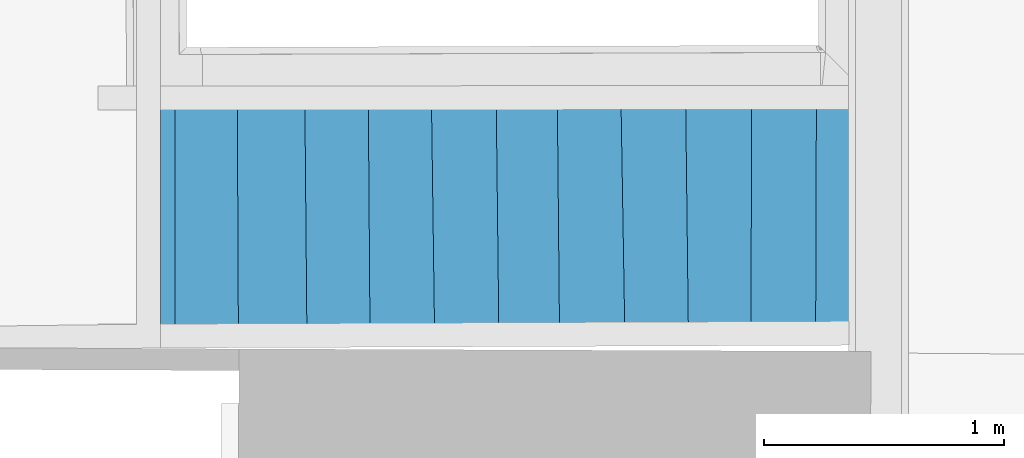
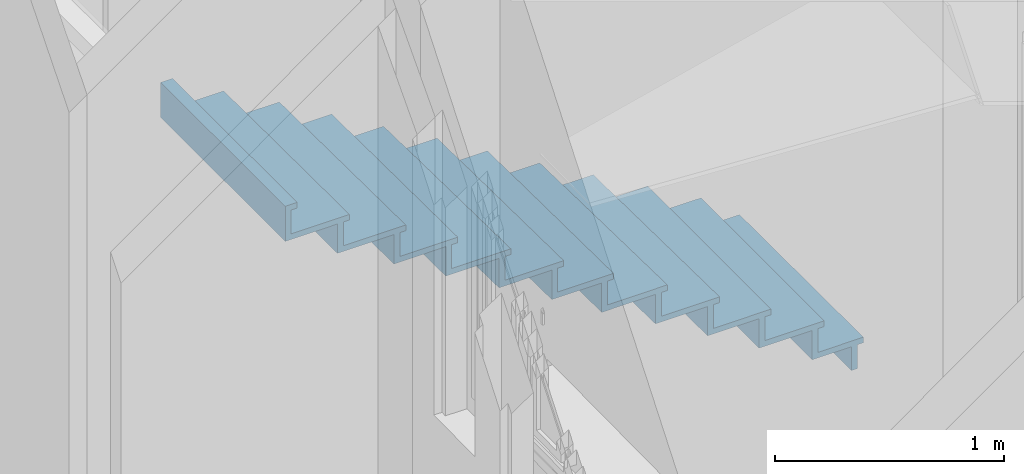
# One storey, part 50 of 66: 1 stair flight, 1 element without a shape of its own.
"""IFC2X3 building model written with IfcOpenShell, lengths in centimetres."""

from ifc_helpers import new_model, entity, si_unit, converted_unit, direction, frame, origin, origin_with_axes, place, context, subcontext, project, spatial, faceted_brep, material, material_list, element, aggregate, save


model = new_model("IFC2X3")

# Units and contexts
model_context = context("Model", 3, precision=0.0001, world=origin(), true_north=direction((0.225632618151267, 0.974212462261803, 0.0)))
body_context = subcontext(model_context, "Body", "Model", "MODEL_VIEW")
ifc_project = project(units=[si_unit("LENGTHUNIT", "METRE", prefix="CENTI"), si_unit("AREAUNIT", "SQUARE_METRE", prefix="CENTI"), si_unit("VOLUMEUNIT", "CUBIC_METRE", prefix="CENTI"), converted_unit("PLANEANGLEUNIT", "DEGREE", entity("IfcRatioMeasure", 0.0174532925), si_unit("PLANEANGLEUNIT", "RADIAN"), dimensions=[0, 0, 0, 0, 0, 0, 0])], contexts=[model_context])

# Site, building, storey
site_placement = place(None, origin_with_axes())
site = spatial("IfcSite", under=ifc_project, at=site_placement, Name="Default Site", CompositionType="ELEMENT")
building_placement = place(site_placement, origin_with_axes())
building = spatial("IfcBuilding", under=site, at=building_placement, Name="Default Building", CompositionType="ELEMENT")
storey_placement = place(building_placement, frame((0.0, 0.0, 477.795358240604), z_axis=(0.0, 0.0, 1.0), x_axis=(1.0, 0.0, 0.0)))
storey = spatial("IfcBuildingStorey", under=building, at=storey_placement, Name="Niveau 1", CompositionType="ELEMENT", Elevation=477.795358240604)

# Stair, stair flight
stair_placement = place(storey_placement, frame((-908.00257609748, -228.551642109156, 0.0), z_axis=(0.0, 0.0, 1.0), x_axis=(1.0, 0.0, 0.0)))
stair = element("IfcStair", 1, at=stair_placement, inside=storey, Name="Escalier 133769", ShapeType="NOTDEFINED")
ifc_material_1 = material(Name="Noyer 01")
ifc_material_2 = material(Name="Épicéa")
ifc_material_list = material_list([ifc_material_1, ifc_material_2])
stair_flight_placement = place(stair_placement, frame((0.102147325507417, -53.9950927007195, 12.7130550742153), z_axis=(0.0, 0.0, 1.0), x_axis=(-0.999998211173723, -0.00189146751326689, 0.0)))
stair_flight = element("IfcStairFlight", 2, at=stair_flight_placement, material=ifc_material_list, Name="4294967275", context=body_context, shape_type="Brep", body=[
    faceted_brep([(-2.99997866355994, -4.44089209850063e-14, -12.7130508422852), (0.0, 0.0, -12.7130508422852), (1.67532009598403e-05, -107.990374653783, -12.7130508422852), (-2.99996191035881, -107.990374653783, -12.7130508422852), (0.0, 0.0, 0.0), (-2.99997866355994, -4.44089209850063e-14, 0.0), (-2.99996191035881, -107.990374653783, 0.0), (1.67532009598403e-05, -107.990374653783, 0.0), (-2.99996190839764, -107.990374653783, -12.7130508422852), (-2.99997866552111, -4.47132043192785e-14, 0.0), (-2.99997866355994, 8.13793480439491e-11, -12.7130508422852), (-2.208753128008e-21, -8.14237569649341e-11, 0.0), (-1.96134474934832e-09, -3.04310913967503e-16, -12.7130508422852), (1.67551623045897e-05, -107.990374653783, 0.0), (1.67532009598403e-05, -107.990374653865, -12.7130508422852), (-2.99996191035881, -107.990374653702, 0.0)], [[[0, 1, 2]], [[2, 3, 0]], [[4, 5, 6]], [[6, 7, 4]], [[5, 0, 8]], [[3, 6, 9]], [[4, 1, 10]], [[0, 5, 11]], [[7, 2, 12]], [[1, 4, 13]], [[6, 3, 14]], [[2, 7, 15]]]),
    faceted_brep([(16.8892360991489, 0.0584629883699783, 2.99997329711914), (19.8892817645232, 0.0434663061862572, 2.99997329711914), (19.3489044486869, -108.019128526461, 2.99997329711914), (16.3489541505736, -108.004132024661, 2.99997329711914), (19.8892817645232, 0.0434663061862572, 15.7130241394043), (16.8892360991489, 0.0584629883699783, 15.7130241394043), (16.3489541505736, -108.004132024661, 15.7130241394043), (19.3489044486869, -108.019128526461, 15.7130241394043), (16.3489541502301, -108.00413202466, 2.99997329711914), (16.8892360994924, 0.0584629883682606, 15.7130241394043), (16.8892360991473, 0.058462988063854, 2.99997329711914), (19.8892817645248, 0.0434663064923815, 15.7130241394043), (19.8892817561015, 0.043466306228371, 2.99997329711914), (19.3489044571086, -108.019128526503, 15.7130241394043), (19.3489044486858, -108.019128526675, 2.99997329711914), (16.3489541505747, -108.004132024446, 15.7130241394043)], [[[0, 1, 2]], [[2, 3, 0]], [[4, 5, 6]], [[6, 7, 4]], [[5, 0, 8]], [[3, 6, 9]], [[4, 1, 10]], [[0, 5, 11]], [[7, 2, 12]], [[1, 4, 13]], [[6, 3, 14]], [[2, 7, 15]]]),
    faceted_brep([(43.8131473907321, 0.117305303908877, 18.7130451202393), (46.8131930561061, 0.1023086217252, 18.7130451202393), (46.2723426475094, -108.059145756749, 18.7130451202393), (43.2723923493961, -108.04414925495, 18.7130451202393), (46.8131930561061, 0.1023086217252, 31.4260959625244), (43.8131473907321, 0.117305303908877, 31.4260959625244), (43.2723923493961, -108.04414925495, 31.4260959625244), (46.2723426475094, -108.059145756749, 31.4260959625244), (43.2723923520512, -108.044149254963, 18.7130451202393), (43.8131473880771, 0.117305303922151, 31.4260959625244), (43.8131473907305, 0.117305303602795, 18.7130451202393), (46.8131930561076, 0.102308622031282, 31.4260959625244), (46.8131930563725, 0.102308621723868, 18.7130451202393), (46.2723426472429, -108.059145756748, 31.4260959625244), (46.2723426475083, -108.059145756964, 18.7130451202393), (43.2723923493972, -108.044149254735, 31.4260959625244)], [[[0, 1, 2]], [[2, 3, 0]], [[4, 5, 6]], [[6, 7, 4]], [[5, 0, 8]], [[3, 6, 9]], [[4, 1, 10]], [[0, 5, 11]], [[7, 2, 12]], [[1, 4, 13]], [[6, 3, 14]], [[2, 7, 15]]]),
    faceted_brep([(69.7406641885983, 0.129013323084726, 34.4260692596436), (72.7405087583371, 0.158959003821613, 34.4260692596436), (73.8210091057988, -108.100083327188, 34.4260692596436), (70.8211645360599, -108.130029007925, 34.4260692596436), (72.7405087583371, 0.158959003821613, 47.1391201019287), (69.7406641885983, 0.129013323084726, 47.1391201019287), (70.8211645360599, -108.130029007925, 47.1391201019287), (73.8210091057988, -108.100083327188, 47.1391201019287), (70.8211645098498, -108.130029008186, 34.4260692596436), (69.7406642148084, 0.12901332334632, 47.1391201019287), (69.7406641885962, 0.129013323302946, 34.4260692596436), (72.7405087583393, 0.158959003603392, 47.1391201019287), (72.7405087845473, 0.158959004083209, 34.4260692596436), (73.8210090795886, -108.10008332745, 47.1391201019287), (73.821009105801, -108.100083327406, 34.4260692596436), (70.8211645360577, -108.130029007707, 47.1391201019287)], [[[0, 1, 2]], [[2, 3, 0]], [[4, 5, 6]], [[6, 7, 4]], [[5, 0, 8]], [[3, 6, 9]], [[4, 1, 10]], [[0, 5, 11]], [[7, 2, 12]], [[1, 4, 13]], [[6, 3, 14]], [[2, 7, 15]]]),
    faceted_brep([(96.1634859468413, 0.172972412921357, 50.1391410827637), (99.1631658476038, 0.216699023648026, 50.1391410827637), (100.743112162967, -108.140098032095, 50.1391410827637), (97.7434322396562, -108.183836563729, 50.1391410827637), (99.1631658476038, 0.216699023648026, 62.8521919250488), (96.1634859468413, 0.172972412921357, 62.8521919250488), (97.7434322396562, -108.183836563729, 62.8521919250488), (100.743112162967, -108.140098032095, 62.8521919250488), (97.7434322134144, -108.183836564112, 50.1391410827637), (96.1634859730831, 0.172972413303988, 62.8521919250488), (96.1634859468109, 0.172972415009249, 50.1391410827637), (99.1631658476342, 0.216699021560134, 62.8521919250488), (99.1631658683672, 0.216699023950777, 50.1391410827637), (100.743112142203, -108.140098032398, 62.8521919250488), (100.743112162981, -108.140098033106, 50.1391410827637), (97.7434322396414, -108.183836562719, 62.8521919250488)], [[[0, 1, 2]], [[2, 3, 0]], [[4, 5, 6]], [[6, 7, 4]], [[5, 0, 8]], [[3, 6, 9]], [[4, 1, 10]], [[0, 5, 11]], [[7, 2, 12]], [[1, 4, 13]], [[6, 3, 14]], [[2, 7, 15]]]),
    faceted_brep([(123.354943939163, 0.253267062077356, 65.852165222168), (126.354870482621, 0.27613154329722, 65.852165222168), (127.181416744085, -108.179388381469, 65.852165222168), (124.181490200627, -108.202252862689, 65.852165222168), (126.354870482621, 0.27613154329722, 78.5652160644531), (123.354943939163, 0.253267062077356, 78.5652160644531), (124.181490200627, -108.202252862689, 78.5652160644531), (127.181416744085, -108.179388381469, 78.5652160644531), (124.181490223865, -108.202252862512, 65.852165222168), (123.354943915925, 0.253267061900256, 78.5652160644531), (123.354943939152, 0.253267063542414, 65.852165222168), (126.354870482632, 0.276131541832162, 78.5652160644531), (126.354870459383, 0.27613154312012, 65.852165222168), (127.181416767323, -108.179388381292, 78.5652160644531), (127.181416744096, -108.179388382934, 65.852165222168), (124.181490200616, -108.202252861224, 78.5652160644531)], [[[0, 1, 2]], [[2, 3, 0]], [[4, 5, 6]], [[6, 7, 4]], [[5, 0, 8]], [[3, 6, 9]], [[4, 1, 10]], [[0, 5, 11]], [[7, 2, 12]], [[1, 4, 13]], [[6, 3, 14]], [[2, 7, 15]]]),
    faceted_brep([(148.575762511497, 0.302551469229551, 81.5652370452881), (151.575604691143, 0.331233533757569, 81.5652370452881), (152.613309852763, -108.217180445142, 81.5652370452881), (149.613467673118, -108.24586250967, 81.5652370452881), (151.575604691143, 0.331233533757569, 94.2782878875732), (148.575762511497, 0.302551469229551, 94.2782878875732), (149.613467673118, -108.24586250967, 94.2782878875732), (152.613309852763, -108.217180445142, 94.2782878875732), (149.613467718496, -108.245862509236, 81.5652370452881), (148.575762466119, 0.302551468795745, 94.2782878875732), (148.575762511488, 0.302551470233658, 81.5652370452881), (151.575604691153, 0.331233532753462, 94.2782878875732), (151.575604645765, 0.331233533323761, 81.5652370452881), (152.613309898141, -108.217180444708, 94.2782878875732), (152.613309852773, -108.217180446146, 81.5652370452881), (149.613467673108, -108.245862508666, 94.2782878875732)], [[[0, 1, 2]], [[2, 3, 0]], [[4, 5, 6]], [[6, 7, 4]], [[5, 0, 8]], [[3, 6, 9]], [[4, 1, 10]], [[0, 5, 11]], [[7, 2, 12]], [[1, 4, 13]], [[6, 3, 14]], [[2, 7, 15]]]),
    faceted_brep([(175.304158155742, 0.355016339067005, 97.2782611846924), (178.303916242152, 0.389659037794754, 97.2782611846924), (179.558205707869, -108.257226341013, 97.2782611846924), (176.558447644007, -108.291857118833, 97.2782611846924), (178.303916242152, 0.389659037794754, 109.991312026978), (175.304158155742, 0.355016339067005, 109.991312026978), (176.558447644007, -108.291857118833, 109.991312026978), (179.558205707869, -108.257226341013, 109.991312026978), (176.558447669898, -108.291857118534, 97.2782611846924), (175.304158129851, 0.355016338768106, 109.991312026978), (175.304158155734, 0.355016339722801, 97.2782611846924), (178.303916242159, 0.389659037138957, 109.991312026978), (178.303916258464, 0.389659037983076, 97.2782611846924), (179.558205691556, -108.257226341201, 109.991312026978), (179.558205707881, -108.257226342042, 97.2782611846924), (176.558447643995, -108.291857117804, 109.991312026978)], [[[0, 1, 2]], [[2, 3, 0]], [[4, 5, 6]], [[6, 7, 4]], [[5, 0, 8]], [[3, 6, 9]], [[4, 1, 10]], [[0, 5, 11]], [[7, 2, 12]], [[1, 4, 13]], [[6, 3, 14]], [[2, 7, 15]]]),
    faceted_brep([(202.192531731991, 0.432045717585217, 112.991333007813), (205.192541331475, 0.448401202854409, 112.991333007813), (205.785939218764, -108.296201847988, 112.991333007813), (202.786024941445, -108.312581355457, 112.991333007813), (205.192541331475, 0.448401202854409, 125.704383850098), (202.192531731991, 0.432045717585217, 125.704383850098), (202.786024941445, -108.312581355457, 125.704383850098), (205.785939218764, -108.296201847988, 125.704383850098), (202.786024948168, -108.31258135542, 112.991333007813), (202.192531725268, 0.432045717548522, 125.704383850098), (202.192531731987, 0.432045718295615, 112.991333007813), (205.192541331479, 0.44840120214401, 125.704383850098), (205.192541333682, 0.448401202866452, 112.991333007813), (205.785939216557, -108.296201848, 125.704383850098), (205.78593921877, -108.296201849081, 112.991333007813), (202.786024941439, -108.312581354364, 125.704383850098)], [[[0, 1, 2]], [[2, 3, 0]], [[4, 5, 6]], [[6, 7, 4]], [[5, 0, 8]], [[3, 6, 9]], [[4, 1, 10]], [[0, 5, 11]], [[7, 2, 12]], [[1, 4, 13]], [[6, 3, 14]], [[2, 7, 15]]]),
    faceted_brep([(228.42911687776, 0.484630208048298, 128.704357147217), (231.429040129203, 0.505754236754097, 128.704357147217), (232.195061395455, -108.335448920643, 128.704357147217), (229.19513816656, -108.356561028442, 128.704357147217), (231.429040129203, 0.505754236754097, 141.417407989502), (228.42911687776, 0.484630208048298, 141.417407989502), (229.19513816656, -108.356561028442, 141.417407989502), (232.195061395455, -108.335448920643, 141.417407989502), (229.195138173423, -108.356561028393, 128.704357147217), (228.429116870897, 0.484630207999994, 141.417407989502), (228.429116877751, 0.484630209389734, 128.704357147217), (231.429040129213, 0.505754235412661, 141.417407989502), (231.42904011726, 0.505754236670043, 128.704357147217), (232.195061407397, -108.335448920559, 141.417407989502), (232.195061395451, -108.335448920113, 128.704357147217), (229.195138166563, -108.356561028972, 141.417407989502)], [[[0, 1, 2]], [[2, 3, 0]], [[4, 5, 6]], [[6, 7, 4]], [[5, 0, 8]], [[3, 6, 9]], [[4, 1, 10]], [[0, 5, 11]], [[7, 2, 12]], [[1, 4, 13]], [[6, 3, 14]], [[2, 7, 15]]]),
    faceted_brep([(256.964104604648, 0.560142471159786, 144.417428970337), (259.964098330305, 0.568105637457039, 144.417428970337), (260.253561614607, -108.377148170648, 144.417428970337), (257.253567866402, -108.385123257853, 144.417428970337), (259.964098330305, 0.568105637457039, 157.130479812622), (256.964104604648, 0.560142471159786, 157.130479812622), (257.253567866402, -108.385123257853, 157.130479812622), (260.253561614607, -108.377148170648, 157.130479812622), (257.253567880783, -108.385123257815, 144.417428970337), (256.964104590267, 0.560142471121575, 157.130479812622), (256.964104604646, 0.56014247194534, 144.417428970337), (259.964098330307, 0.568105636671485, 157.130479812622), (259.964098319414, 0.568105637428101, 144.417428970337), (260.253561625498, -108.37714817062, 157.130479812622), (260.253561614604, -108.377148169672, 144.417428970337), (257.253567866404, -108.38512325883, 157.130479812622)], [[[0, 1, 2]], [[2, 3, 0]], [[4, 5, 6]], [[6, 7, 4]], [[5, 0, 8]], [[3, 6, 9]], [[4, 1, 10]], [[0, 5, 11]], [[7, 2, 12]], [[1, 4, 13]], [[6, 3, 14]], [[2, 7, 15]]]),
    faceted_brep([(283.353982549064, 0.632321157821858, 160.130453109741), (286.353948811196, 0.62576465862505, 160.130453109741), (286.116038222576, -108.415587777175, 160.130453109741), (283.116071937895, -108.409043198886, 160.130453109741), (286.353948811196, 0.62576465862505, 172.843503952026), (283.353982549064, 0.632321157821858, 172.843503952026), (283.116071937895, -108.409043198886, 172.843503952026), (286.116038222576, -108.415587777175, 172.843503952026), (283.116071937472, -108.409043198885, 160.130453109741), (283.353982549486, 0.632321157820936, 172.843503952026), (283.353982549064, 0.63232115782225, 160.130453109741), (286.353948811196, 0.625764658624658, 172.843503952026), (286.353948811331, 0.625764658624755, 160.130453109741), (286.11603822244, -108.415587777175, 172.843503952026), (286.116038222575, -108.415587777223, 160.130453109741), (283.116071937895, -108.409043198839, 172.843503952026)], [[[0, 1, 2]], [[2, 3, 0]], [[4, 5, 6]], [[6, 7, 4]], [[5, 0, 8]], [[3, 6, 9]], [[4, 1, 10]], [[0, 5, 11]], [[7, 2, 12]], [[1, 4, 13]], [[6, 3, 14]], [[2, 7, 15]]]),
    faceted_brep([(-5.99998212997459, -0.0131129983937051, 2.99997329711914), (-6.00001907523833, -107.981457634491, 2.99997329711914), (19.3489044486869, -108.019128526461, 2.99997329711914), (19.8892817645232, 0.0434663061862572, 2.99997329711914), (19.3489044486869, -108.019128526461, 0.0), (-6.00001907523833, -107.981457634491, 0.0), (-5.99998212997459, -0.0131129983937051, 0.0), (19.8892817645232, 0.0434663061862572, 0.0), (-5.99998213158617, -0.0131129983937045, 2.99997329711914), (-6.00001907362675, -107.981457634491, 0.0), (-6.00001907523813, -107.981457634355, 2.99997329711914), (19.3489044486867, -108.019128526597, 0.0), (19.3489044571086, -108.019128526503, 2.99997329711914), (19.8892817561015, 0.043466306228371, 0.0), (19.8892817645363, 0.0434663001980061, 2.99997329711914), (-5.99998212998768, -0.0131129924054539, 0.0)], [[[0, 1, 2]], [[2, 3, 0]], [[4, 5, 6]], [[6, 7, 4]], [[5, 1, 8]], [[0, 6, 9]], [[4, 2, 10]], [[1, 5, 11]], [[7, 3, 12]], [[2, 4, 13]], [[6, 0, 14]], [[3, 7, 15]]]),
    faceted_brep([(13.8891089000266, 0.0303536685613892, 18.7130451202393), (13.3488686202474, -108.010211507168, 18.7130451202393), (46.2723426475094, -108.059145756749, 18.7130451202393), (46.8131930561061, 0.1023086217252, 18.7130451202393), (46.2723426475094, -108.059145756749, 15.7130241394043), (13.3488686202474, -108.010211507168, 15.7130241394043), (13.8891089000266, 0.0303536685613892, 15.7130241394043), (46.8131930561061, 0.1023086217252, 15.7130241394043), (13.8891089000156, 0.0303536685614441, 18.7130451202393), (13.3488686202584, -108.010211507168, 15.7130241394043), (13.3488686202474, -108.010211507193, 18.7130451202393), (46.2723426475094, -108.059145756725, 15.7130241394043), (46.2723426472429, -108.059145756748, 18.7130451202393), (46.8131930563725, 0.102308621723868, 15.7130241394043), (46.8131930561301, 0.102308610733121, 18.7130451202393), (13.8891089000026, 0.0303536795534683, 15.7130241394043)], [[[0, 1, 2]], [[2, 3, 0]], [[4, 5, 6]], [[6, 7, 4]], [[5, 1, 8]], [[0, 6, 9]], [[4, 2, 10]], [[1, 5, 11]], [[7, 3, 12]], [[2, 4, 13]], [[6, 0, 14]], [[3, 7, 15]]]),
    faceted_brep([(40.2723068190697, -108.050228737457, 34.4260692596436), (73.8210091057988, -108.100083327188, 34.4260692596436), (72.7405087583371, 0.158959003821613, 34.4260692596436), (40.8130201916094, 0.089195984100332, 34.4260692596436), (72.7405087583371, 0.158959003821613, 31.4260959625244), (73.8210091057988, -108.100083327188, 31.4260959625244), (40.2723068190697, -108.050228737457, 31.4260959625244), (40.8130201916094, 0.089195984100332, 31.4260959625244), (40.8130201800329, 0.0891959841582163, 34.4260692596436), (40.2723068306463, -108.050228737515, 31.4260959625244), (40.2723068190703, -108.050228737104, 34.4260692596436), (73.8210091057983, -108.100083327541, 31.4260959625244), (73.8210090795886, -108.10008332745, 34.4260692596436), (72.7405087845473, 0.158959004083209, 31.4260959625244), (72.7405087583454, 0.158958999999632, 34.4260692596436), (40.8130201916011, 0.0891959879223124, 31.4260959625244)], [[[0, 1, 2]], [[2, 3, 0]], [[4, 5, 6]], [[6, 7, 4]], [[6, 0, 8]], [[3, 7, 9]], [[5, 1, 10]], [[0, 6, 11]], [[4, 2, 12]], [[1, 5, 13]], [[7, 3, 14]], [[2, 4, 15]]]),
    faceted_brep([(67.8206871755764, -108.091165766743, 50.1391410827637), (100.743112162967, -108.140098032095, 50.1391410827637), (99.1631658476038, 0.216699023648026, 50.1391410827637), (66.7403358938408, 0.145846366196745, 50.1391410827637), (99.1631658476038, 0.216699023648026, 47.1391201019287), (100.743112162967, -108.140098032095, 47.1391201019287), (67.8206871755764, -108.091165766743, 47.1391201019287), (66.7403358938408, 0.145846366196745, 47.1391201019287), (66.7403359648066, 0.145846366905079, 50.1391410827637), (67.8206871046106, -108.091165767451, 47.1391201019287), (67.8206871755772, -108.091165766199, 50.1391410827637), (100.743112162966, -108.140098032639, 47.1391201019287), (100.743112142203, -108.140098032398, 50.1391410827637), (99.1631658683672, 0.216699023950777, 47.1391201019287), (99.1631658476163, 0.216699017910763, 50.1391410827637), (66.7403358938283, 0.145846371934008, 47.1391201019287)], [[[0, 1, 2]], [[2, 3, 0]], [[4, 5, 6]], [[6, 7, 4]], [[6, 0, 8]], [[3, 7, 9]], [[5, 1, 10]], [[0, 6, 11]], [[4, 2, 12]], [[1, 5, 13]], [[7, 3, 14]], [[2, 4, 15]]]),
    faceted_brep([(94.742313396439, -108.131179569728, 65.852165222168), (127.181416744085, -108.179388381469, 65.852165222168), (126.354870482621, 0.27613154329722, 65.852165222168), (93.162706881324, 0.203586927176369, 65.852165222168), (126.354870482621, 0.27613154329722, 62.8521919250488), (127.181416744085, -108.179388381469, 62.8521919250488), (94.742313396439, -108.131179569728, 62.8521919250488), (93.162706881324, 0.203586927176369, 62.8521919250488), (93.1627068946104, 0.203586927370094, 65.852165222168), (94.7423133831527, -108.131179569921, 62.8521919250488), (94.742313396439, -108.13117956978, 65.852165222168), (127.181416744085, -108.179388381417, 62.8521919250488), (127.181416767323, -108.179388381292, 65.852165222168), (126.354870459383, 0.27613154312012, 62.8521919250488), (126.354870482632, 0.276131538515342, 65.852165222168), (93.1627068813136, 0.203586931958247, 62.8521919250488)], [[[0, 1, 2]], [[2, 3, 0]], [[4, 5, 6]], [[6, 7, 4]], [[6, 0, 8]], [[3, 7, 9]], [[5, 1, 10]], [[0, 6, 11]], [[4, 2, 12]], [[1, 5, 13]], [[7, 3, 14]], [[2, 4, 15]]]),
    faceted_brep([(121.181190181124, -108.170471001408, 81.5652370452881), (152.613309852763, -108.217180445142, 81.5652370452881), (151.575604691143, 0.331233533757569, 81.5652370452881), (120.354792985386, 0.263018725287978, 81.5652370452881), (151.575604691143, 0.331233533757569, 78.5652160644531), (152.613309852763, -108.217180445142, 78.5652160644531), (121.181190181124, -108.170471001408, 78.5652160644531), (120.354792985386, 0.263018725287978, 78.5652160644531), (120.354793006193, 0.263018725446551, 81.5652370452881), (121.181190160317, -108.170471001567, 78.5652160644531), (121.181190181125, -108.170471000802, 81.5652370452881), (152.613309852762, -108.217180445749, 78.5652160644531), (152.613309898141, -108.217180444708, 81.5652370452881), (151.575604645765, 0.331233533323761, 78.5652160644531), (151.575604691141, 0.33123353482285, 81.5652370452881), (120.354792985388, 0.263018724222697, 78.5652160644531)], [[[0, 1, 2]], [[2, 3, 0]], [[4, 5, 6]], [[6, 7, 4]], [[6, 0, 8]], [[3, 7, 9]], [[5, 1, 10]], [[0, 6, 11]], [[4, 2, 12]], [[1, 5, 13]], [[7, 3, 14]], [[2, 4, 15]]]),
    faceted_brep([(146.612987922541, -108.208262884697, 97.2782611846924), (179.558205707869, -108.257226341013, 97.2782611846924), (178.303916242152, 0.389659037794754, 97.2782611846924), (145.575527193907, 0.318120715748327, 97.2782611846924), (178.303916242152, 0.389659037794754, 94.2782878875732), (179.558205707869, -108.257226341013, 94.2782878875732), (146.612987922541, -108.208262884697, 94.2782878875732), (145.575527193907, 0.318120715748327, 94.2782878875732), (145.575527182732, 0.3181207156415, 97.2782611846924), (146.612987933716, -108.20826288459, 94.2782878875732), (146.612987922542, -108.208262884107, 97.2782611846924), (179.558205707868, -108.257226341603, 94.2782878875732), (179.558205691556, -108.257226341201, 97.2782611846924), (178.303916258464, 0.389659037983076, 94.2782878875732), (178.303916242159, 0.389659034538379, 97.2782611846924), (145.5755271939, 0.318120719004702, 94.2782878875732)], [[[0, 1, 2]], [[2, 3, 0]], [[4, 5, 6]], [[6, 7, 4]], [[6, 0, 8]], [[3, 7, 9]], [[5, 1, 10]], [[0, 6, 11]], [[4, 2, 12]], [[1, 5, 13]], [[7, 3, 14]], [[2, 4, 15]]]),
    faceted_brep([(173.557693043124, -108.248308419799, 112.991333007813), (205.785939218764, -108.296201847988, 112.991333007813), (205.192541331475, 0.448401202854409, 112.991333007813), (172.303648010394, 0.376546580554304, 112.991333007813), (205.192541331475, 0.448401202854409, 109.991312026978), (205.785939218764, -108.296201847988, 109.991312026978), (173.557693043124, -108.248308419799, 109.991312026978), (172.303648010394, 0.376546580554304, 109.991312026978), (172.30364801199, 0.376546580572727, 112.991333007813), (173.557693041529, -108.248308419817, 109.991312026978), (173.557693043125, -108.248308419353, 112.991333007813), (205.785939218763, -108.296201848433, 109.991312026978), (205.785939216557, -108.296201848, 112.991333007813), (205.192541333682, 0.448401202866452, 109.991312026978), (205.192541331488, 0.448401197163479, 112.991333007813), (172.303648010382, 0.376546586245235, 109.991312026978)], [[[0, 1, 2]], [[2, 3, 0]], [[4, 5, 6]], [[6, 7, 4]], [[6, 0, 8]], [[3, 7, 9]], [[5, 1, 10]], [[0, 6, 11]], [[4, 2, 12]], [[1, 5, 13]], [[7, 3, 14]], [[2, 4, 15]]]),
    faceted_brep([(199.785808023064, -108.287284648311, 128.704357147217), (232.195061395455, -108.335448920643, 128.704357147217), (231.429040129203, 0.505754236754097, 128.704357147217), (199.19246383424, 0.435288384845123, 128.704357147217), (231.429040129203, 0.505754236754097, 125.704383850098), (232.195061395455, -108.335448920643, 125.704383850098), (199.785808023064, -108.287284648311, 125.704383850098), (199.19246383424, 0.435288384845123, 125.704383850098), (199.192463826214, 0.435288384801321, 128.704357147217), (199.78580803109, -108.287284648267, 125.704383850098), (199.785808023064, -108.28728464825, 128.704357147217), (232.195061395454, -108.335448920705, 125.704383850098), (232.195061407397, -108.335448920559, 128.704357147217), (231.42904011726, 0.505754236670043, 125.704383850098), (231.429040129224, 0.50575422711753, 128.704357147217), (199.192463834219, 0.43528839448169, 125.704383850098)], [[[0, 1, 2]], [[2, 3, 0]], [[4, 5, 6]], [[6, 7, 4]], [[6, 0, 8]], [[3, 7, 9]], [[5, 1, 10]], [[0, 6, 11]], [[4, 2, 12]], [[1, 5, 13]], [[7, 3, 14]], [[2, 4, 15]]]),
    faceted_brep([(226.194834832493, -108.326531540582, 144.417428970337), (260.253561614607, -108.377148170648, 144.417428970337), (259.964098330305, 0.568105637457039, 144.417428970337), (225.428962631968, 0.492641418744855, 144.417428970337), (259.964098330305, 0.568105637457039, 141.417407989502), (260.253561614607, -108.377148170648, 141.417407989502), (226.194834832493, -108.326531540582, 141.417407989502), (225.428962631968, 0.492641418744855, 141.417407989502), (225.428962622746, 0.492641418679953, 144.417428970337), (226.194834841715, -108.326531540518, 141.417407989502), (226.194834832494, -108.326531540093, 144.417428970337), (260.253561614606, -108.377148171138, 141.417407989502), (260.253561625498, -108.37714817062, 144.417428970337), (259.964098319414, 0.568105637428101, 141.417407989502), (259.964098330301, 0.568105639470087, 144.417428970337), (225.428962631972, 0.492641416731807, 141.417407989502)], [[[0, 1, 2]], [[2, 3, 0]], [[4, 5, 6]], [[6, 7, 4]], [[6, 0, 8]], [[3, 7, 9]], [[5, 1, 10]], [[0, 6, 11]], [[4, 2, 12]], [[1, 5, 13]], [[7, 3, 14]], [[2, 4, 15]]]),
    faceted_brep([(253.964110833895, 0.552155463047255, 160.130453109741), (254.253525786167, -108.368231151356, 160.130453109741), (286.116038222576, -108.415587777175, 160.130453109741), (286.353948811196, 0.62576465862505, 160.130453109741), (286.116038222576, -108.415587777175, 157.130479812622), (254.253525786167, -108.368231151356, 157.130479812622), (253.964110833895, 0.552155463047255, 157.130479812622), (286.353948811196, 0.62576465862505, 157.130479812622), (253.964110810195, 0.55215546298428, 160.130453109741), (254.253525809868, -108.368231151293, 157.130479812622), (254.253525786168, -108.368231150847, 160.130453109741), (286.116038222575, -108.415587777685, 157.130479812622), (286.11603822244, -108.415587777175, 160.130453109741), (286.353948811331, 0.625764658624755, 157.130479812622), (286.353948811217, 0.625764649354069, 160.130453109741), (253.964110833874, 0.552155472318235, 157.130479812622)], [[[0, 1, 2]], [[2, 3, 0]], [[4, 5, 6]], [[6, 7, 4]], [[5, 1, 8]], [[0, 6, 9]], [[4, 2, 10]], [[1, 5, 11]], [[7, 3, 12]], [[2, 4, 13]], [[6, 0, 14]], [[3, 7, 15]]]),
    faceted_brep([(280.116105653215, -108.402498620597, 175.843524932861), (286.116038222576, -108.415587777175, 175.843524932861), (286.353948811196, 0.62576465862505, 175.843524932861), (280.354016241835, 0.638853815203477, 175.843524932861), (286.116038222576, -108.415587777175, 172.843503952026), (280.116105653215, -108.402498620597, 172.843503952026), (280.354016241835, 0.638853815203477, 172.843503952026), (286.353948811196, 0.62576465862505, 172.843503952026), (280.35401624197, 0.638853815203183, 175.843524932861), (280.11610565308, -108.402498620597, 172.843503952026), (280.116105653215, -108.402498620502, 175.843524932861), (286.116038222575, -108.41558777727, 172.843503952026), (286.11603822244, -108.415587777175, 175.843524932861), (286.353948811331, 0.625764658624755, 172.843503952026), (286.353948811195, 0.625764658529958, 175.843524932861), (280.354016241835, 0.638853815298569, 172.843503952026)], [[[0, 1, 2]], [[2, 3, 0]], [[4, 5, 6]], [[6, 7, 4]], [[5, 0, 8]], [[3, 6, 9]], [[4, 1, 10]], [[0, 5, 11]], [[7, 2, 12]], [[1, 4, 13]], [[6, 3, 14]], [[2, 7, 15]]]),
])
aggregate(stair, [stair_flight])

save(model, "model.ifc")
